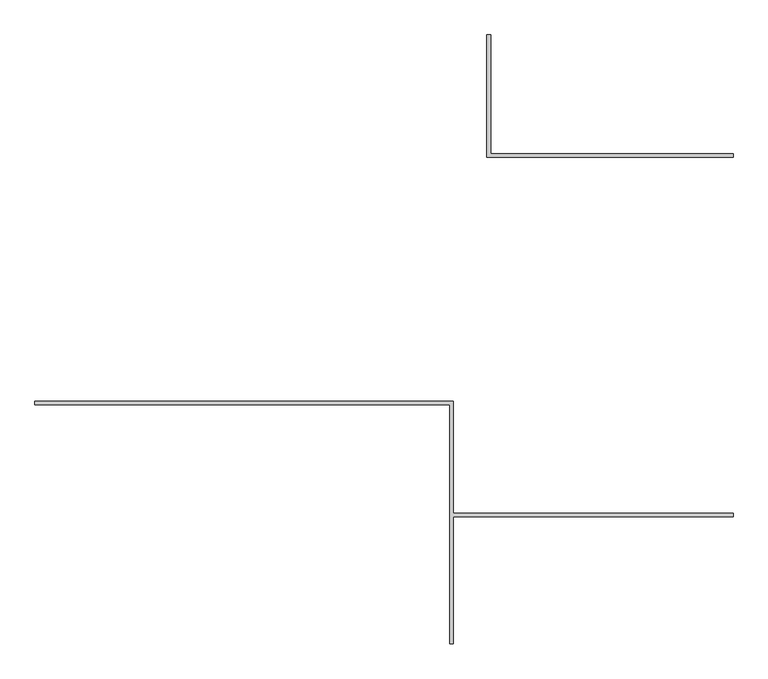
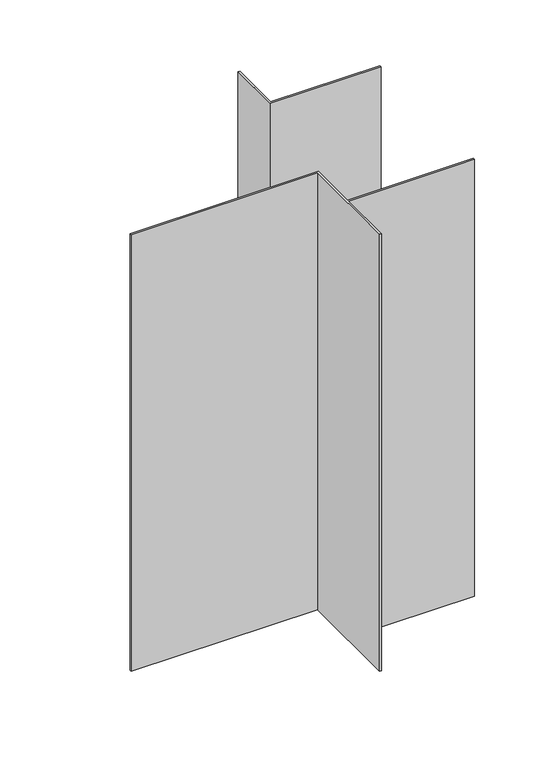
"""IFC4 building model written with IfcOpenShell, lengths in millimetres: proxy geometry, 常规模型 3 : 常规模型 3."""

from ifc_helpers import new_model, si_unit, frame, origin, place, context, project, spatial, polyline, outline, extrude, source, transform, mapped, element, save


def generic_models_c3175720(model_context):
    return source(origin(), model_context, "Body", "SweptSolid", [
        extrude(outline(polyline([(3222.132234, 1136.6904444), (3222.132234, 818.6904444), (3872.132234, 818.6904444), (3872.132234, 808.6904444), (3212.132234, 808.6904444), (3212.132234, 1136.6904444), (3222.132234, 1136.6904444)])), frame((0.0, 0.0, 20.0), z_axis=(0.0, 0.0, 1.0), x_axis=(1.0, 0.0, 0.0)), (0.0, 0.0, 1.0), 2750.0),
        extrude(outline(polyline([(3112.132234, 144.6904444), (2000.132234, 144.6904444), (2000.132234, 154.6904444), (3122.132234, 154.6904444), (3122.132234, -145.3095556), (3872.132234, -145.3095556), (3872.132234, -155.3095556), (3122.132234, -155.3095556), (3122.132234, -495.3095556), (3112.132234, -495.3095556), (3112.132234, 144.6904444)])), frame((0.0, 0.0, 20.0), z_axis=(0.0, 0.0, 1.0), x_axis=(1.0, 0.0, 0.0)), (0.0, 0.0, 1.0), 2750.0),
    ])


if __name__ == "__main__":
    model = new_model("IFC4")
    model_context = context("Model", 3, world=origin())
    ifc_project = project(units=[si_unit("LENGTHUNIT", "METRE", prefix="MILLI")], contexts=[model_context])
    site = spatial("IfcSite", under=ifc_project)
    building = spatial("IfcBuilding", under=site)
    placement = place(None, origin())
    generic_models_shape = generic_models_c3175720(model_context)
    element("IfcBuildingElementProxy", 1, Name="常规模型 3 : 常规模型 3", ObjectType="常规模型 3 : 常规模型 3", at=placement, inside=building, context=model_context, shape_type="MappedRepresentation", body=[
        mapped(generic_models_shape, transform((0.0, 0.0, 0.0), x_axis=(1.0, 0.0, 0.0), y_axis=(0.0, 1.0, 0.0), z_axis=(0.0, 0.0, 1.0))),
    ])
    save(model, "model.ifc")
